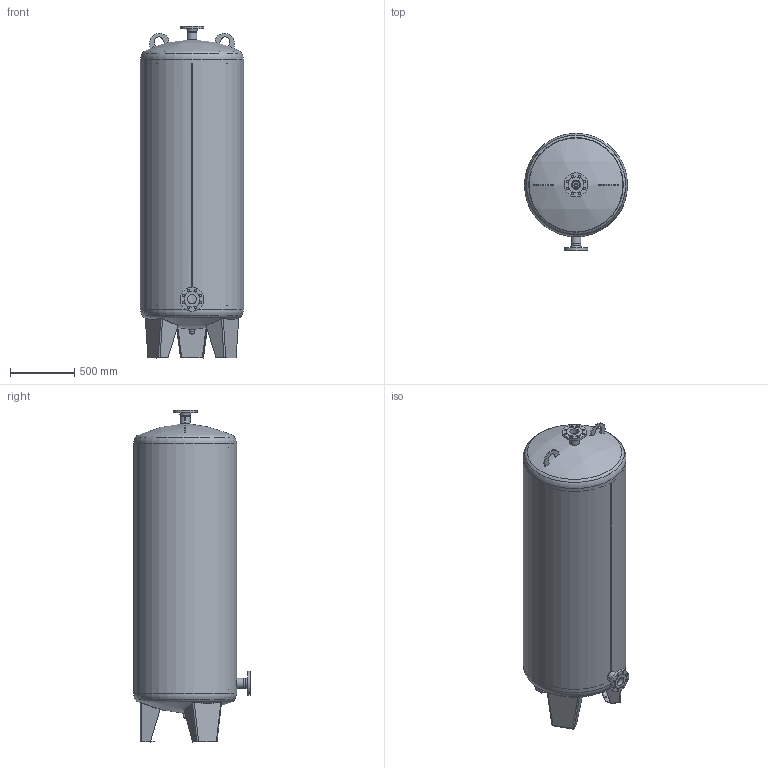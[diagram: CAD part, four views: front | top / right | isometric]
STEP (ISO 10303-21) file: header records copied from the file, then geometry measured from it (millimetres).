
FILE_DESCRIPTION((''),'2;1');
FILE_NAME('C:\Vault\Inventor\Expansion\elko-mat\EV\EV 1000\EV1000-10-110.stp','2012-06-11T14:38:47',('Walder'),(''),'Autodesk Inventor 11','Autodesk Inventor 11','');
FILE_SCHEMA(('AUTOMOTIVE_DESIGN { 1 0 10303 214 1 1 1 1 }'));
Length unit declared in the file: millimetre
Products named in the file (1): EV1000-10-110
Bounding box: 800 x 907 x 2575.26 mm (x, y, z)
Volume: 37808477 mm3; surface area: 13308807.5 mm2
Topology: 4 solids, 4 shells, 205 faces, 525 edges, 342 vertices
Faces by surface type: plane 97, cylinder 58, bspline 37, torus 6, cone 5, sphere 2
Full cylindrical faces by diameter (mm): 18 x16, 20.96 x1, 24.117 x2, 32 x1, 60 x1, 70.3 x2, 76.1 x2, 122 x2, 185 x2, 784 x2, 800 x1
Entity records: 9604 total; most frequent: CARTESIAN_POINT 4925, ORIENTED_EDGE 932, DIRECTION 867, EDGE_CURVE 466, VERTEX_POINT 335, AXIS2_PLACEMENT_3D 321, EDGE_LOOP 321, VECTOR 225
